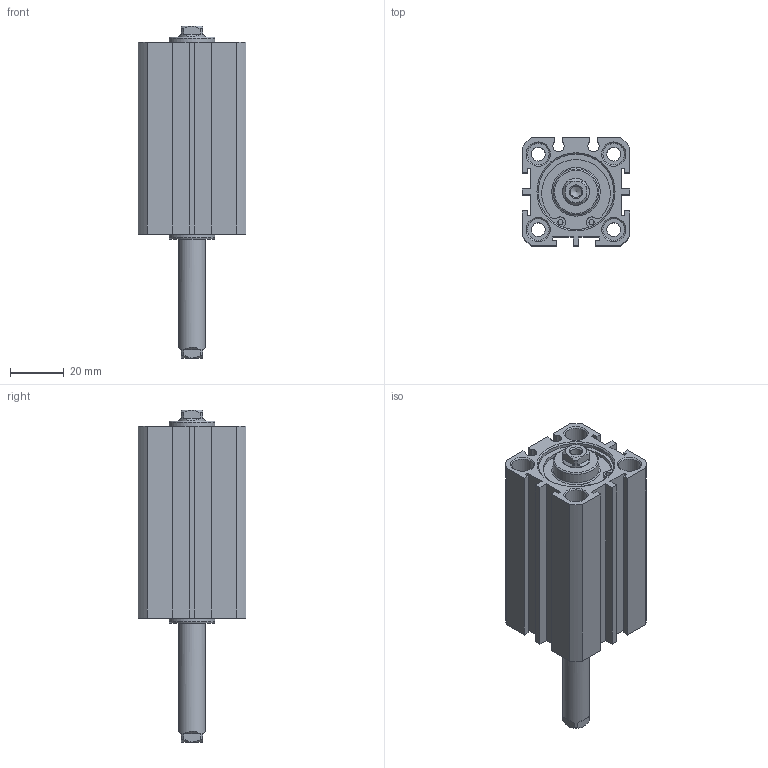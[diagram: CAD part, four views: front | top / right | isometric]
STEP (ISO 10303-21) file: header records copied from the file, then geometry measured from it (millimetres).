
FILE_DESCRIPTION((''),'2;1');
FILE_NAME('I:\3D電子目錄\氣缸\JDD\JDD-S\JDD25-S\JDD25x40-S.stp','2007-02-08T14:25:44',('662F206'),(''),'Autodesk Inventor 10','Autodesk Inventor 10','');
FILE_SCHEMA(('AUTOMOTIVE_DESIGN { 1 0 10303 214 1 1 1 1 }'));
Length unit declared in the file: millimetre
Products named in the file (3): JDD25-S; R 形環 28
Assembly tree (3 placements, depth 2):
  JDD25-S
    JDD25-S
    R 形環 28  x2
Bounding box: 40 x 40 x 123.2 mm (x, y, z)
Volume: 95456.4 mm3; surface area: 28310 mm2
Topology: 3 solids, 3 shells, 172 faces, 410 edges, 266 vertices
Faces by surface type: plane 92, cylinder 46, cone 22, bspline 10, torus 2
Full cylindrical faces by diameter (mm): 1.5 x2, 1.9 x4, 5.1 x4, 8 x8, 10 x2, 17 x2, 28 x4, 29.4 x2
Entity records: 4529 total; most frequent: CARTESIAN_POINT 950, DIRECTION 740, ORIENTED_EDGE 640, EDGE_CURVE 320, AXIS2_PLACEMENT_3D 280, EDGE_LOOP 244, VERTEX_POINT 236, VECTOR 180
